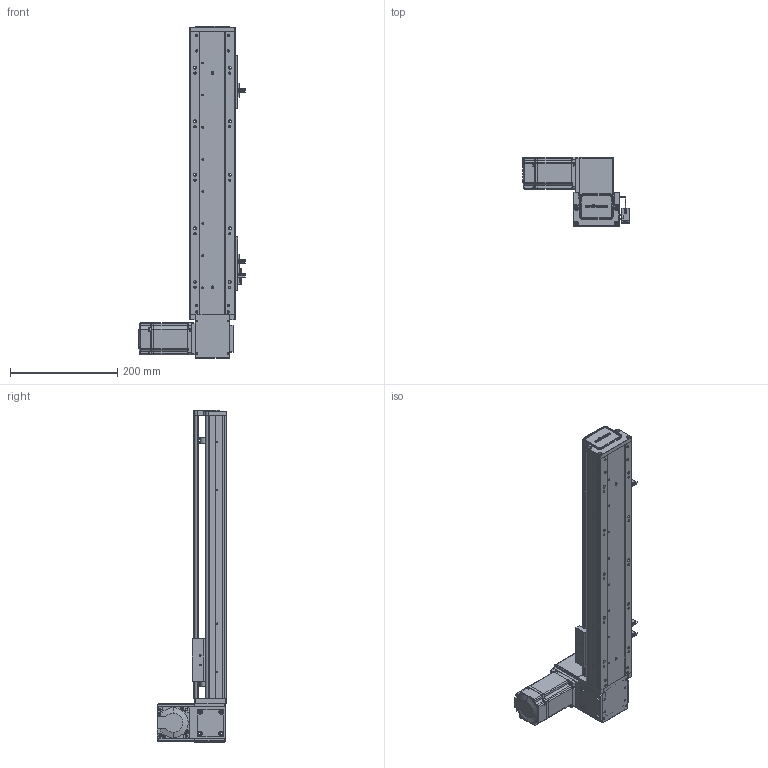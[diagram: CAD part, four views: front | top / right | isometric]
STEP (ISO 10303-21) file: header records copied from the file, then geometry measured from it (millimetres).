
FILE_DESCRIPTION (( 'STEP AP203' ), '1' );
FILE_NAME ('RY80-T-300-UL.SLDASM_350.step', '2021-03-01T02:16:17', ( '盈信电脑' ), ( '东莞市道滘镇水果街19号' ), 'SwSTEP 2.0', 'SolidWorks 2012', '' );
FILE_SCHEMA (( 'CONFIG_CONTROL_DESIGN' ));
Length unit declared in the file: millimetre
Products named in the file (19): RY80-T-M4蹟翐2; RY80-T-上下折同步轮盖板; RY80-T-300-UL.SLDASM_350; 滅袉蝶18-10; RY80-T肮祭謫奻殏俋欶; 1; RY80-T翋肮祭謫裔啣; RY80-T肮祭湍揤輸1; RY80-T肮祭湍揤輸2; RY80-T萇儂假蚾啣; RY80-T粣創揤踡輸; RY80俋离覜茼え; 覜茼ん672; RY80-T-翋肮祭謫釱; RY80-T肮祭謫臏賑輸; RY80-T-300-UL倰第奻裔啣_350; 672嫖萇羲壽假蚾釱; RY80-T綴裔啣; RY80-T-300-UL倰第菁釱_350
Assembly tree (24 placements, depth 2):
  RY80-T-300-UL.SLDASM_350
    RY80-T-300-UL倰第菁釱_350
    RY80-T肮祭謫臏賑輸
    RY80-T-300-UL倰第奻裔啣_350
    RY80-T綴裔啣
    672嫖萇羲壽假蚾釱  x2
    覜茼ん672  x3
    RY80俋离覜茼え
    RY80-T-翋肮祭謫釱
    RY80-T肮祭湍揤輸1
    RY80-T肮祭湍揤輸2
    RY80-T萇儂假蚾啣
    RY80-T粣創揤踡輸  x2
    滅袉蝶18-10  x2
    RY80-T翋肮祭謫裔啣
    1
    RY80-T肮祭謫奻殏俋欶
    RY80-T-M4蹟翐2  x2
    RY80-T-上下折同步轮盖板
Bounding box: 198.7 x 130.5 x 620 mm (x, y, z)
Volume: 1351800.6 mm3; surface area: 539011.7 mm2
Topology: 24 solids, 24 shells, 2417 faces, 6622 edges, 4297 vertices
Faces by surface type: plane 1330, cylinder 884, cone 147, bspline 56
Entity records: 74427 total; most frequent: CARTESIAN_POINT 17506, ORIENTED_EDGE 11628, DIRECTION 11020, EDGE_CURVE 5814, VERTEX_POINT 3818, LINE 3676, VECTOR 3676, AXIS2_PLACEMENT_3D 3672
